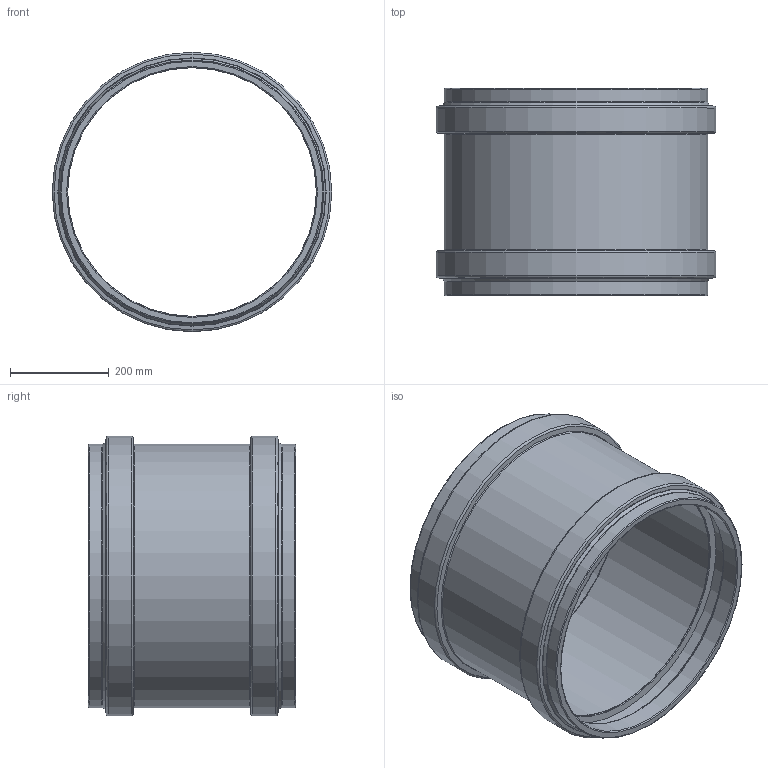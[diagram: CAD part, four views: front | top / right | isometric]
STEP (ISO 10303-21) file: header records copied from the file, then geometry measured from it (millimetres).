
FILE_DESCRIPTION(/* description */ (''),/* implementation_level */ '2;1');
FILE_NAME(/* name */ '771160z.stp',/* time_stamp */ '2025-07-17T09:27:51+02:00',/* author */ ('corinna'),/* organization */ (''),/* preprocessor_version */ 'ST-DEVELOPER v20',/* originating_system */ 'Autodesk Inventor 2024',/* authorisation */ '');
FILE_SCHEMA (('AUTOMOTIVE_DESIGN { 1 0 10303 214 3 1 1 }'));
Length unit declared in the file: millimetre
Products named in the file (1): 771160z
Bounding box: 565.5 x 419 x 565.5 mm (x, y, z)
Volume: 11646113.6 mm3; surface area: 1583897.7 mm2
Topology: 1 solids, 1 shells, 55 faces, 152 edges, 101 vertices
Faces by surface type: torus 25, cone 14, cylinder 12, plane 4
Full cylindrical faces by diameter (mm): 503 x1, 503.5 x4, 533 x1, 533.5 x2, 535.5 x2, 565.5 x2
Entity records: 1891 total; most frequent: DIRECTION 390, CARTESIAN_POINT 309, ORIENTED_EDGE 304, AXIS2_PLACEMENT_3D 182, EDGE_CURVE 152, CIRCLE 126, VERTEX_POINT 101, EDGE_LOOP 59
